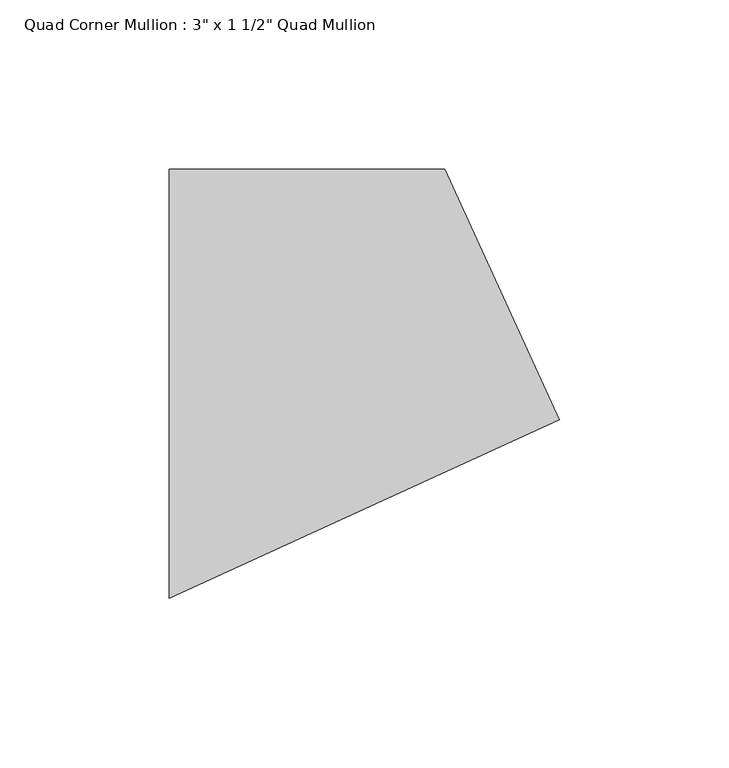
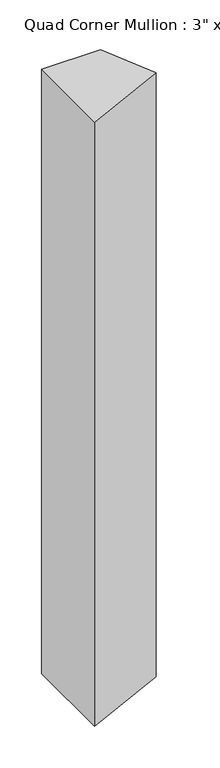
"""IFC4 building model written with IfcOpenShell, lengths in millimetres: member geometry."""

from ifc_helpers import new_model, si_unit, frame, origin, place, context, project, spatial, polyline, outline, extrude, source, transform, mapped, element, save


def member_8fdd89c4(model_context):
    return source(origin(), model_context, "Body", "SweptSolid", [
        extrude(outline(polyline([(74.7078921, -10.6493518), (-40.7728811, -63.5), (-40.7728811, 63.5), (40.7728811, 63.5), (74.7078921, -10.6493518)])), frame((0.0, 0.0, -882.65), z_axis=(0.0, 0.0, 1.0), x_axis=(1.0, 0.0, 0.0)), (0.0, 0.0, 1.0), 882.65),
    ])


if __name__ == "__main__":
    model = new_model("IFC4")
    model_context = context("Model", 3, world=origin())
    ifc_project = project(units=[si_unit("LENGTHUNIT", "METRE", prefix="MILLI")], contexts=[model_context])
    site = spatial("IfcSite", under=ifc_project)
    building = spatial("IfcBuilding", under=site)
    placement = place(None, origin())
    member_shape = member_8fdd89c4(model_context)
    element("IfcMember", 1, ObjectType="Quad Corner Mullion : 3\" x 1 1/2\" Quad Mullion", at=placement, inside=building, context=model_context, shape_type="MappedRepresentation", body=[
        mapped(member_shape, transform((0.0, 0.0, 0.0), x_axis=(1.0, 0.0, 0.0), y_axis=(0.0, 1.0, 0.0), z_axis=(0.0, 0.0, 1.0))),
    ])
    save(model, "model.ifc")
